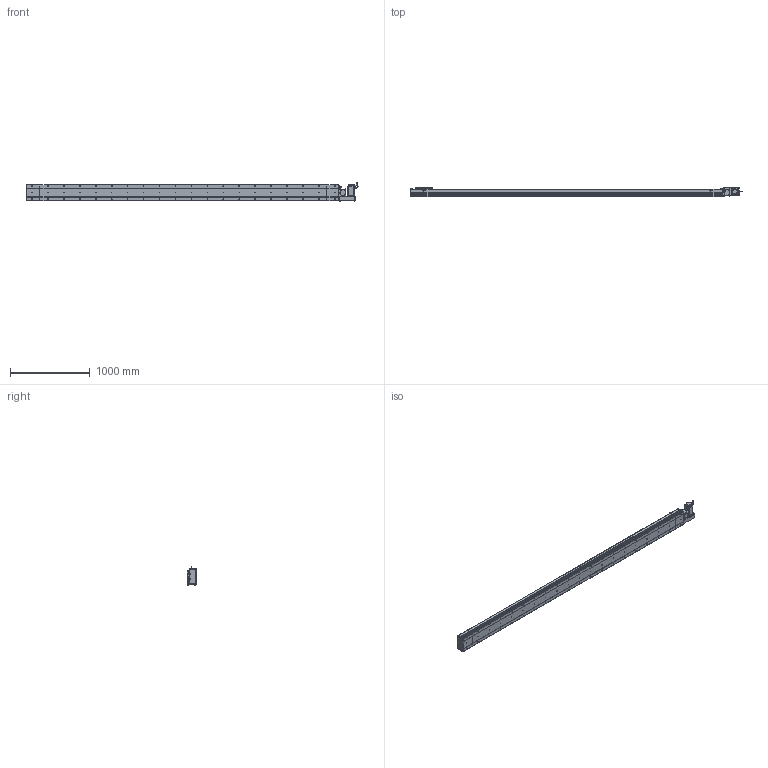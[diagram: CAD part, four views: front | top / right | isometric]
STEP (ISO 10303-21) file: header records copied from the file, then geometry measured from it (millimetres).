
FILE_DESCRIPTION (( 'STEP AP214' ), '1' );
FILE_NAME ('D20 CBH RH S3600.STEP', '2010-06-30T11:02:37', ( 'Conseil Régional Haute-Normandie' ), ( 'Conseil Régional Haute-Normandie' ), 'SwSTEP 2.0', 'SolidWorks 2010', '' );
FILE_SCHEMA (( 'AUTOMOTIVE_DESIGN' ));
Length unit declared in the file: millimetre
Products named in the file (31): Corp Tail D20 RH_Default; Couvercle RH_Default; Plaque de Bout Head D20 RH_Default; Support Chariot D20_Default; Plaque De Serrage D20 RH_Default; Rondelle Cache D20 RH_Default; Corp S3600_Default; Couvercle S3600_Default; Moteur motionking 90BLDC125A-640; Tail D20_Default; D20 CBH RH S3600; vis M5 L15_Default; Plaque De Serrage D20_Default; Plaque de Bout Tail D20_Default; Couvercle_Default; Corp Tail D20_Default; Chariot D20_Default; avant 90BLDC125A-640; corps 90BLDC125A-640; codeur 90BLDC125-640; Conecteur2_Default; Conecteur_Default; ecrou_Default; vis M5 L47_Default; Corp D20 S3600_Default; vis M5 L30_Default; Cache Support Moteur RH_Default; Glissiere_Default; Support moteur RH_Default; Head D20 RH_Default
Assembly tree (68 placements, depth 4):
  D20 CBH RH S3600
    Tail D20_Default
      vis M5 L15_Default  x6
      Plaque De Serrage D20_Default
      Couvercle_Default
      Plaque de Bout Tail D20_Default
      Corp Tail D20_Default
    Chariot D20_Default
      vis M5 L15_Default  x8
      Support Chariot D20_Default
      Chariot D20_Default
      Glissiere_Default
    Corp D20 S3600_Default
      Couvercle S3600_Default
      Corp S3600_Default
    Head D20 RH_Default
      vis M5 L15_Default  x14
      ecrou_Default  x4
      Support moteur RH_Default
      Rondelle Cache D20 RH_Default  x3
      vis M5 L47_Default  x4
      Plaque De Serrage D20 RH_Default
      Moteur motionking 90BLDC125A-640
        Conecteur2_Default
        corps 90BLDC125A-640
        Conecteur_Default
        codeur 90BLDC125-640
        avant 90BLDC125A-640
      vis M5 L30_Default  x4
      Corp Tail D20 RH_Default
      Couvercle RH_Default
      Cache Support Moteur RH_Default
      Plaque de Bout Head D20 RH_Default
Bounding box: 4165.45 x 119.5 x 229.7 mm (x, y, z)
Volume: 27032612.5 mm3; surface area: 5167310.9 mm2
Topology: 105 solids, 105 shells, 3889 faces, 9642 edges, 6262 vertices
Faces by surface type: plane 2152, bspline 806, cylinder 760, torus 95, cone 72, sphere 4
Entity records: 161342 total; most frequent: CARTESIAN_POINT 82625, ORIENTED_EDGE 15552, DIRECTION 11998, EDGE_CURVE 7776, VERTEX_POINT 5146, LINE 4984, VECTOR 4984, AXIS2_PLACEMENT_3D 3507
